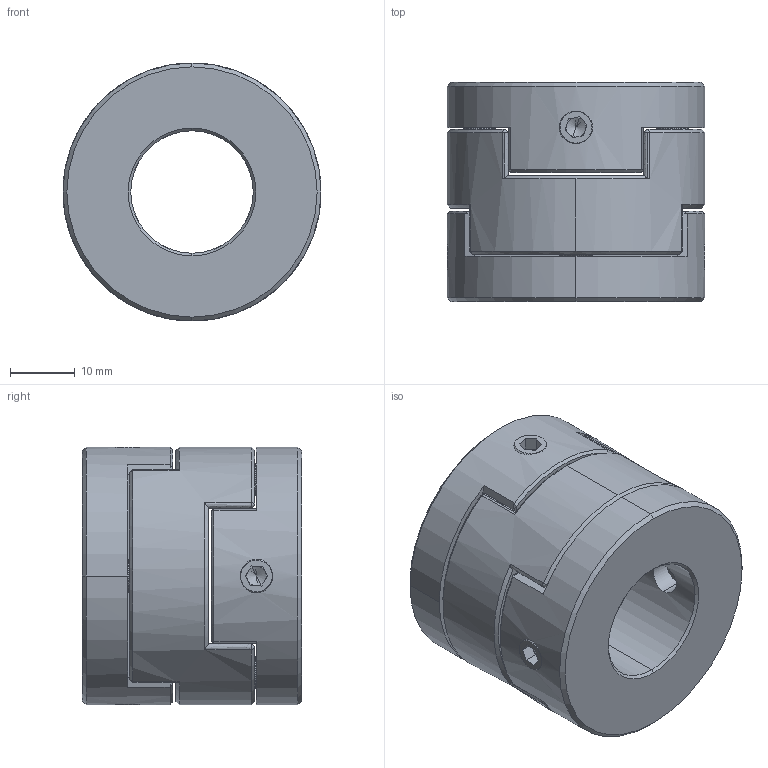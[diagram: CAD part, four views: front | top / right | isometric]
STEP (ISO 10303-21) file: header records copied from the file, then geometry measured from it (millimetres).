
FILE_DESCRIPTION (( 'STEP AP203' ), '1' );
FILE_NAME ('LZ-D-D40L35-19-19.STEP', '2021-10-30T05:26:29', ( '' ), ( '' ), 'SwSTEP 2.0', 'SolidWorks 2018', '' );
FILE_SCHEMA (( 'CONFIG_CONTROL_DESIGN' ));
Length unit declared in the file: millimetre
Products named in the file (1): LZ-D-D40L35-19-19
Bounding box: 40 x 34 x 40 mm (x, y, z)
Volume: 31649.4 mm3; surface area: 12187 mm2
Topology: 1 solids, 1 shells, 217 faces, 542 edges, 327 vertices
Faces by surface type: plane 88, bspline 55, cone 48, cylinder 26
Entity records: 7712 total; most frequent: CARTESIAN_POINT 2989, ORIENTED_EDGE 1068, DIRECTION 796, EDGE_CURVE 534, VERTEX_POINT 327, AXIS2_PLACEMENT_3D 289, EDGE_LOOP 243, VECTOR 218
